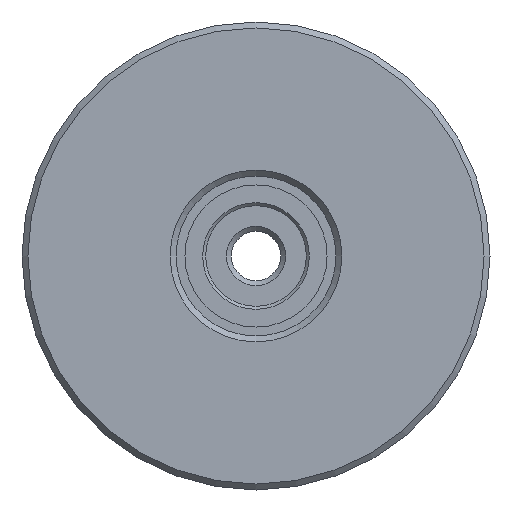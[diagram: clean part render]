
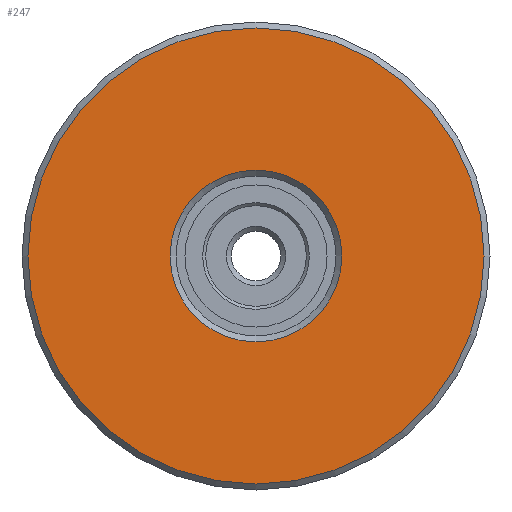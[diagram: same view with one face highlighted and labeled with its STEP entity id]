
A CAD part, left-side view. The second image highlights one B-rep face of the part: STEP entity #247.
In plain terms, the highlighted planar face has unit normal (-1, 0, 0) as drawn and (0, -1, 0) by its records, which use the part's own axes.
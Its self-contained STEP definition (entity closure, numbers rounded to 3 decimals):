
#247 = ADVANCED_FACE( '', ( #353, #354 ), #355, .T. );
#353 = FACE_OUTER_BOUND( '', #594, .T. );
#354 = FACE_BOUND( '', #595, .T. );
#355 = PLANE( '', #596 );
#594 = EDGE_LOOP( '', ( #842 ) );
#595 = EDGE_LOOP( '', ( #843 ) );
#596 = AXIS2_PLACEMENT_3D( '', #844, #845, #846 );
#842 = ORIENTED_EDGE( '', *, *, #1493, .T. );
#843 = ORIENTED_EDGE( '', *, *, #1492, .F. );
#844 = CARTESIAN_POINT( '', ( 14.5, 0., 0. ) );
#845 = DIRECTION( '', ( 0., -1., 0. ) );
#846 = DIRECTION( '', ( 0., 0., -1. ) );
#1492 = EDGE_CURVE( '', #1685, #1685, #1686, .T. );
#1493 = EDGE_CURVE( '', #1687, #1687, #1688, .T. );
#1685 = VERTEX_POINT( '', #2015 );
#1686 = CIRCLE( '', #2016, 14.5 );
#1687 = VERTEX_POINT( '', #2017 );
#1688 = CIRCLE( '', #2018, 38.5 );
#2015 = CARTESIAN_POINT( '', ( 0., 0., -14.5 ) );
#2016 = AXIS2_PLACEMENT_3D( '', #2689, #2690, #2691 );
#2017 = CARTESIAN_POINT( '', ( 0., 0., -38.5 ) );
#2018 = AXIS2_PLACEMENT_3D( '', #2692, #2693, #2694 );
#2689 = CARTESIAN_POINT( '', ( 0., 0., 0. ) );
#2690 = DIRECTION( '', ( 0., -1., 0. ) );
#2691 = DIRECTION( '', ( 0., 0., -1. ) );
#2692 = CARTESIAN_POINT( '', ( 0., 0., 0. ) );
#2693 = DIRECTION( '', ( 0., -1., 0. ) );
#2694 = DIRECTION( '', ( 0., 0., -1. ) );
